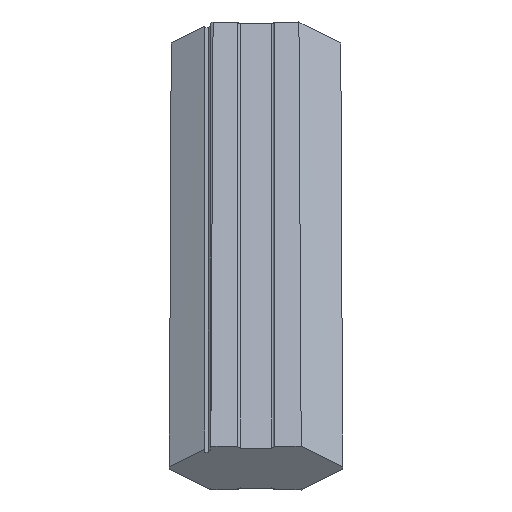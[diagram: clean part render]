
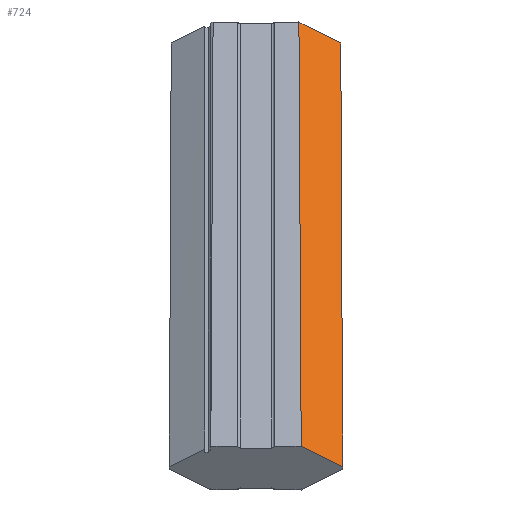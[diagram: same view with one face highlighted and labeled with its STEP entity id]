
A CAD part, isometric view. The second image highlights one B-rep face of the part: STEP entity #724.
In plain terms, the highlighted free-form (B-spline) face has degree [3, 1] with [4, 2] control points.
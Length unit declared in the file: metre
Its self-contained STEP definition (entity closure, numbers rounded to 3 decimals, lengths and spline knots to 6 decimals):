
#28=B_SPLINE_SURFACE_WITH_KNOTS('',3,1,((#1339,#1340),(#1341,#1342),(#1343,
#1344),(#1345,#1346)),.SURF_OF_LINEAR_EXTRUSION.,.F.,.F.,.F.,(4,4),(2,2),
(-0.000021,0.999833),(0.,1.),
 .PIECEWISE_BEZIER_KNOTS.);
#57=B_SPLINE_CURVE_WITH_KNOTS('',3,(#1024,#1025,#1026,#1027),
 .UNSPECIFIED.,.F.,.F.,(4,4),(0.,0.009365),
 .UNSPECIFIED.);
#64=B_SPLINE_CURVE_WITH_KNOTS('',3,(#1092,#1093,#1094,#1095),
 .UNSPECIFIED.,.F.,.F.,(4,4),(0.,0.009304),.UNSPECIFIED.);
#72=B_SPLINE_CURVE_WITH_KNOTS('',3,(#1265,#1266,#1267,#1268,#1269,#1270),
 .UNSPECIFIED.,.F.,.F.,(4,1,1,4),(0.870887,0.903165,0.935443,
1.),.UNSPECIFIED.);
#77=B_SPLINE_CURVE_WITH_KNOTS('',3,(#1335,#1336,#1337,#1338),
 .UNSPECIFIED.,.F.,.F.,(4,4),(0.,1.),.UNSPECIFIED.);
#78=B_SPLINE_CURVE_WITH_KNOTS('',3,(#1347,#1348,#1349,#1350,#1351,#1352,
#1353,#1354,#1355,#1356,#1357,#1358,#1359,#1360,#1361,#1362,#1363,#1364,
#1365,#1366,#1367,#1368,#1369,#1370,#1371,#1372,#1373,#1374,#1375,#1376,
#1377,#1378,#1379,#1380,#1381,#1382,#1383,#1384,#1385,#1386,#1387,#1388,
#1389,#1390,#1391,#1392,#1393,#1394,#1395,#1396,#1397,#1398,#1399),
 .UNSPECIFIED.,.F.,.F.,(4,1,1,1,1,1,1,1,1,1,1,1,1,1,1,1,1,1,1,1,1,1,1,1,
1,1,1,1,1,1,1,1,1,1,1,1,1,1,1,1,1,1,1,1,1,1,1,1,1,1,4),(0.175065,
0.194388,0.20405,0.213712,0.223373,
0.233035,0.237866,0.240281,0.242697,
0.245112,0.24632,0.247528,0.248131,
0.248735,0.249339,0.249641,0.249792,
0.249943,0.250018,0.250094,0.250245,
0.250547,0.251151,0.251755,0.252358,
0.253566,0.254774,0.257189,0.259605,
0.26202,0.266851,0.271682,0.276513,
0.281344,0.291005,0.300667,0.310329,
0.31999,0.324821,0.329652,0.332068,
0.333275,0.334483,0.336898,0.339314,
0.344145,0.348976,0.368299,0.406946,
0.445593,0.484239),.UNSPECIFIED.);
#208=ORIENTED_EDGE('',*,*,#336,.F.);
#209=ORIENTED_EDGE('',*,*,#390,.F.);
#210=ORIENTED_EDGE('',*,*,#359,.T.);
#211=ORIENTED_EDGE('',*,*,#389,.F.);
#212=ORIENTED_EDGE('',*,*,#376,.F.);
#336=EDGE_CURVE('',#447,#448,#57,.T.);
#359=EDGE_CURVE('',#471,#470,#64,.T.);
#376=EDGE_CURVE('',#448,#481,#72,.T.);
#389=EDGE_CURVE('',#481,#470,#77,.T.);
#390=EDGE_CURVE('',#471,#447,#78,.T.);
#447=VERTEX_POINT('',#1023);
#448=VERTEX_POINT('',#1028);
#470=VERTEX_POINT('',#1091);
#471=VERTEX_POINT('',#1096);
#481=VERTEX_POINT('',#1271);
#625=EDGE_LOOP('',(#208,#209,#210,#211,#212));
#666=FACE_BOUND('',#625,.T.);
#724=ADVANCED_FACE('',(#666),#28,.T.);
#1023=CARTESIAN_POINT('',(0.16559,0.203879,0.0045));
#1024=CARTESIAN_POINT('',(0.16559,0.203879,0.0045));
#1025=CARTESIAN_POINT('',(0.167471,0.201998,0.002866));
#1026=CARTESIAN_POINT('',(0.169351,0.200117,0.001232));
#1027=CARTESIAN_POINT('',(0.171232,0.198236,-0.000402));
#1028=CARTESIAN_POINT('',(0.171232,0.198236,-0.000402));
#1091=CARTESIAN_POINT('',(0.072506,0.098972,-0.000371));
#1092=CARTESIAN_POINT('',(0.0669,0.104578,0.0045));
#1093=CARTESIAN_POINT('',(0.068769,0.102709,0.002877));
#1094=CARTESIAN_POINT('',(0.070637,0.100841,0.001254));
#1095=CARTESIAN_POINT('',(0.072506,0.098972,-0.00037));
#1096=CARTESIAN_POINT('',(0.0669,0.104578,0.0045));
#1265=CARTESIAN_POINT('',(0.171232,0.198236,-0.000402));
#1266=CARTESIAN_POINT('',(0.163483,0.190526,-0.000402));
#1267=CARTESIAN_POINT('',(0.147836,0.174927,-0.000402));
#1268=CARTESIAN_POINT('',(0.116865,0.143902,-0.000402));
#1269=CARTESIAN_POINT('',(0.09466,0.121467,-0.000402));
#1270=CARTESIAN_POINT('',(0.08043,0.10697,-0.000402));
#1271=CARTESIAN_POINT('',(0.08043,0.10697,-0.000402));
#1335=CARTESIAN_POINT('',(0.08043,0.10697,-0.000402));
#1336=CARTESIAN_POINT('',(0.077788,0.104305,-0.000391));
#1337=CARTESIAN_POINT('',(0.075147,0.101639,-0.000381));
#1338=CARTESIAN_POINT('',(0.072506,0.098972,-0.00037));
#1339=CARTESIAN_POINT('',(0.16601,0.204645,0.004652));
#1340=CARTESIAN_POINT('',(0.17188,0.198817,-0.00043));
#1341=CARTESIAN_POINT('',(0.132671,0.171182,0.004523));
#1342=CARTESIAN_POINT('',(0.138541,0.165353,-0.000558));
#1343=CARTESIAN_POINT('',(0.099376,0.137674,0.004496));
#1344=CARTESIAN_POINT('',(0.105246,0.131846,-0.000586));
#1345=CARTESIAN_POINT('',(0.06615,0.1041,0.004624));
#1346=CARTESIAN_POINT('',(0.072019,0.098271,-0.000458));
#1347=CARTESIAN_POINT('',(0.0669,0.104578,0.0045));
#1348=CARTESIAN_POINT('',(0.068392,0.106098,0.0045));
#1349=CARTESIAN_POINT('',(0.070347,0.108089,0.0045));
#1350=CARTESIAN_POINT('',(0.072388,0.110169,0.0045));
#1351=CARTESIAN_POINT('',(0.073636,0.11144,0.0045));
#1352=CARTESIAN_POINT('',(0.074601,0.112423,0.0045));
#1353=CARTESIAN_POINT('',(0.07517,0.113003,0.0045));
#1354=CARTESIAN_POINT('',(0.075445,0.113283,0.0045));
#1355=CARTESIAN_POINT('',(0.075566,0.113406,0.0045));
#1356=CARTESIAN_POINT('',(0.07564,0.113481,0.0045));
#1357=CARTESIAN_POINT('',(0.075686,0.113529,0.0045));
#1358=CARTESIAN_POINT('',(0.075715,0.113558,0.0045));
#1359=CARTESIAN_POINT('',(0.075729,0.113572,0.0045));
#1360=CARTESIAN_POINT('',(0.075738,0.113581,0.0045));
#1361=CARTESIAN_POINT('',(0.075743,0.113587,0.0045));
#1362=CARTESIAN_POINT('',(0.075747,0.113591,0.0045));
#1363=CARTESIAN_POINT('',(0.075749,0.113593,0.0045));
#1364=CARTESIAN_POINT('',(0.075751,0.113594,0.0045));
#1365=CARTESIAN_POINT('',(0.07575,0.113594,0.0045));
#1366=CARTESIAN_POINT('',(0.075753,0.113597,0.0045));
#1367=CARTESIAN_POINT('',(0.075799,0.113644,0.0045));
#1368=CARTESIAN_POINT('',(0.07586,0.113706,0.0045));
#1369=CARTESIAN_POINT('',(0.075996,0.113844,0.0045));
#1370=CARTESIAN_POINT('',(0.076183,0.114034,0.0045));
#1371=CARTESIAN_POINT('',(0.07641,0.114265,0.0045));
#1372=CARTESIAN_POINT('',(0.076712,0.114573,0.0045));
#1373=CARTESIAN_POINT('',(0.07709,0.114957,0.0045));
#1374=CARTESIAN_POINT('',(0.077696,0.115573,0.0045));
#1375=CARTESIAN_POINT('',(0.078453,0.116343,0.0045));
#1376=CARTESIAN_POINT('',(0.079363,0.117269,0.0045));
#1377=CARTESIAN_POINT('',(0.080579,0.118504,0.0045));
#1378=CARTESIAN_POINT('',(0.082102,0.120051,0.0045));
#1379=CARTESIAN_POINT('',(0.083934,0.121912,0.0045));
#1380=CARTESIAN_POINT('',(0.085772,0.123777,0.0045));
#1381=CARTESIAN_POINT('',(0.088229,0.126269,0.0045));
#1382=CARTESIAN_POINT('',(0.091314,0.129394,0.0045));
#1383=CARTESIAN_POINT('',(0.095037,0.133162,0.0045));
#1384=CARTESIAN_POINT('',(0.09878,0.136946,0.0045));
#1385=CARTESIAN_POINT('',(0.101919,0.140116,0.0045));
#1386=CARTESIAN_POINT('',(0.104437,0.142656,0.0045));
#1387=CARTESIAN_POINT('',(0.106024,0.144257,0.0045));
#1388=CARTESIAN_POINT('',(0.107118,0.145359,0.0045));
#1389=CARTESIAN_POINT('',(0.107775,0.146021,0.0045));
#1390=CARTESIAN_POINT('',(0.108316,0.146566,0.0045));
#1391=CARTESIAN_POINT('',(0.109026,0.147282,0.0045));
#1392=CARTESIAN_POINT('',(0.110149,0.148412,0.0045));
#1393=CARTESIAN_POINT('',(0.111565,0.149838,0.0045));
#1394=CARTESIAN_POINT('',(0.11498,0.153275,0.0045));
#1395=CARTESIAN_POINT('',(0.122503,0.160837,0.0045));
#1396=CARTESIAN_POINT('',(0.134517,0.172881,0.0045));
#1397=CARTESIAN_POINT('',(0.149641,0.187995,0.0045));
#1398=CARTESIAN_POINT('',(0.160195,0.198511,0.0045));
#1399=CARTESIAN_POINT('',(0.16559,0.203879,0.0045));
